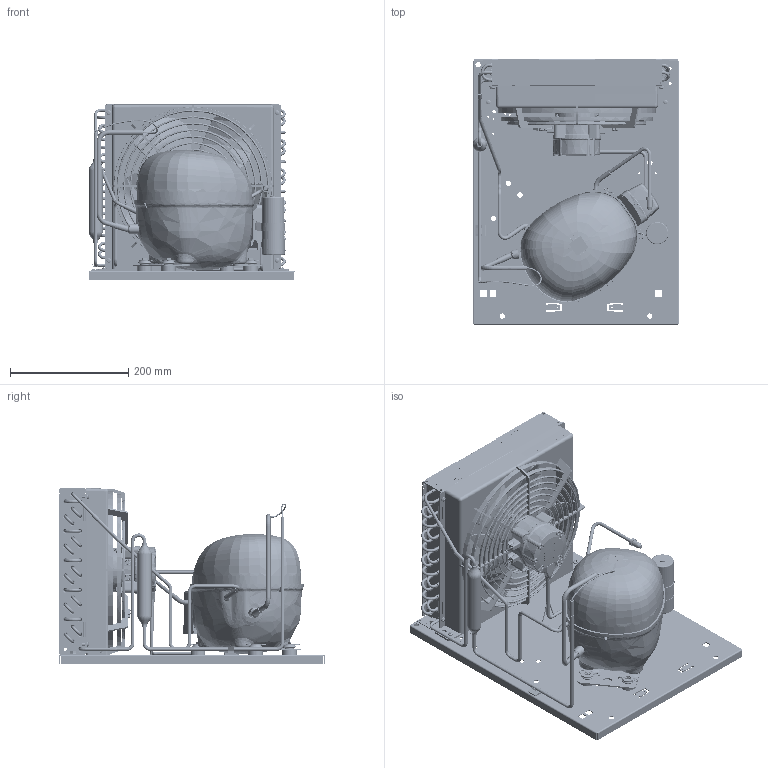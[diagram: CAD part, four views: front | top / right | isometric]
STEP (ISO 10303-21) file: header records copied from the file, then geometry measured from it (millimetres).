
FILE_DESCRIPTION(/* description */ ('Unknown'),/* implementation_level */ '2;1');
FILE_NAME(/* name */ '2298-0075',/* time_stamp */ '2022-03-23T14:36:38+01:00',/* author */ ('Unknown'),/* organization */ ('Unknown'),/* preprocessor_version */ 'ST-DEVELOPER v16.7',/* originating_system */ 'Solid Edge',/* authorisation */ 'Unknown');
FILE_SCHEMA (('AUTOMOTIVE_DESIGN {1 0 10303 214 3 1 1}'));
Products named in the file (44): 2298-0075; 1130270FI0; rl5010606; rl5010607; r59a00320; RL5019401; 2905052522; 2905051820; rn5003508; r57a00320; RL5025004; 84fm6x8xxxxtesf00; 84DM6X5.2XXESRF00; cg254n; 84a4.2x9.5xtbcf01; A254-28; 62010155; 9221-0002; 84dm4x3.6xxesrf00; 2298-0075 CAVO_VENTOLA; 99000082_SECOP_F-GAS; 99000324; 99000327; 99000326; 6804-0612; 118-3661; 99000082_secop; 103N2010; 55300397; 7000-0297; 92505122_oa_0; 680065982; GFN30_62-62; 6803-1604; 99100226; 6803-1513; 99000321; 6803-1514; 99540010; 99000205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
Assembly tree (90 placements, depth 3):
  2298-0075
    1130270FI0
      rl5010606
      rl5010607
      r59a00320  x5
      RL5019401
      2905052522  x5
      2905051820  x10
      rn5003508
      r57a00320  x11
      RL5025004  x2
    84fm6x8xxxxtesf00  x2
    84DM6X5.2XXESRF00  x2
    cg254n
    84a4.2x9.5xtbcf01  x6
    A254-28
    62010155
    9221-0002
    84dm4x3.6xxesrf00  x4
    2298-0075 CAVO_VENTOLA
    99000082_SECOP_F-GAS
    99000324
    99000327
    99000326
    6804-0612
    118-3661  x4
    99000082_secop
    103N2010
    55300397
    7000-0297
    92505122_oa_0
    680065982
    GFN30_62-62
    6803-1604
    99100226
    6803-1513
    99000321
    6803-1514
    99540010
    99000205
    99500110
    84RM10X21XXPIAF00  x4
    118-7353  x4
    2992137_oa_1
Bounding box: 350.3 x 450 x 297.36 mm (x, y, z)
Volume: 3686299.8 mm3; surface area: 2069396 mm2
Topology: 94 solids, 96 shells, 12182 faces, 31843 edges, 20424 vertices
Faces by surface type: plane 5775, cylinder 2262, bspline 2106, torus 1282, cone 650, sphere 107
Full cylindrical faces by diameter (mm): 1.2 x4, 1.3 x2, 1.5 x2, 1.8 x2, 1.869 x1, 1.945 x3, 1.951 x1, 2 x20, 2.2 x8, 2.27 x3, 2.277 x3, 2.45 x6, 3.14 x6, 3.2 x1, 3.242 x4, 3.375 x1, 3.5 x23, 3.962 x1, 4 x38, 4.064 x1, 4.1 x1, 4.2 x29, 4.205 x11, 4.5 x41, 5 x75, 5.196 x1, 5.2 x2, 5.4 x4, 5.48 x60, 5.5 x15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
Entity records: 612954 total; most frequent: CARTESIAN_POINT 299283, ORIENTED_EDGE 57982, DIRECTION 43102, EDGE_CURVE 28991, VERTEX_POINT 19182, AXIS2_PLACEMENT_3D 16152, EDGE_LOOP 13937, FACE_BOUND 13937
